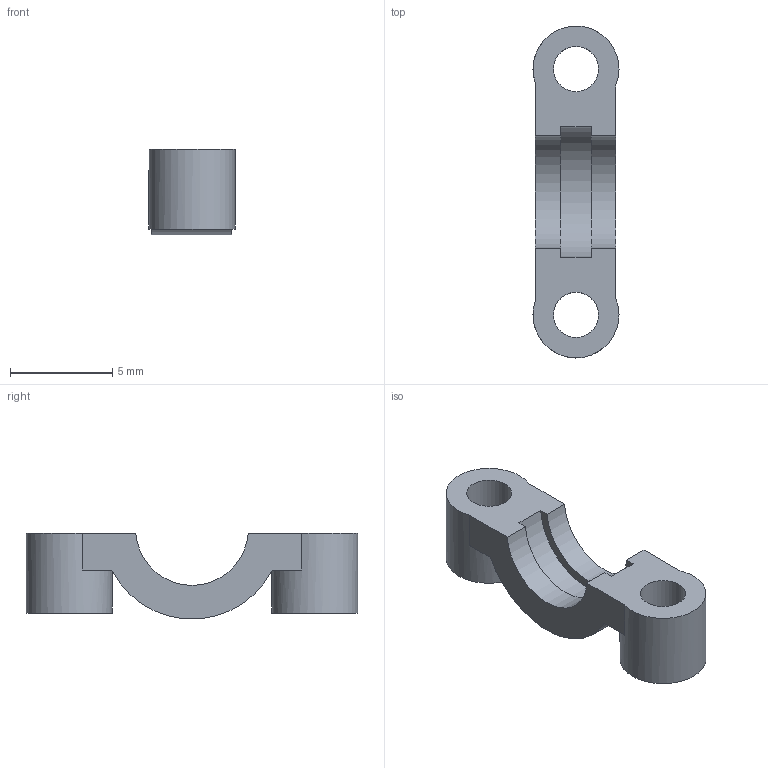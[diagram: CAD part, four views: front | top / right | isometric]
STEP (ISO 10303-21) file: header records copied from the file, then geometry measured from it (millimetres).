
FILE_DESCRIPTION(('Open CASCADE Model'),'2;1');
FILE_NAME('Open CASCADE Shape Model','2026-09-08T12:38:22',('Author'),( 'Open CASCADE'),'Open CASCADE STEP processor 7.7','Open CASCADE 7.7' ,'Unknown');
FILE_SCHEMA(('AUTOMOTIVE_DESIGN { 1 0 10303 214 1 1 1 1 }'));
Length unit declared in the file: millimetre
Products named in the file (1): Open CASCADE STEP translator 7.7 9
Bounding box: 4.2 x 16.2 x 4.18 mm (x, y, z)
Volume: 136.6 mm3; surface area: 311.2 mm2
Topology: 1 solids, 1 shells, 22 faces, 58 edges, 38 vertices
Faces by surface type: plane 12, cylinder 8, cone 2
Full cylindrical faces by diameter (mm): 2.2 x2, 4.2 x2
Entity records: 1510 total; most frequent: CARTESIAN_POINT 337, DIRECTION 220, ORIENTED_EDGE 116, PCURVE 116, DEFINITIONAL_REPRESENTATION 116, LINE 110, VECTOR 110, EDGE_CURVE 58
